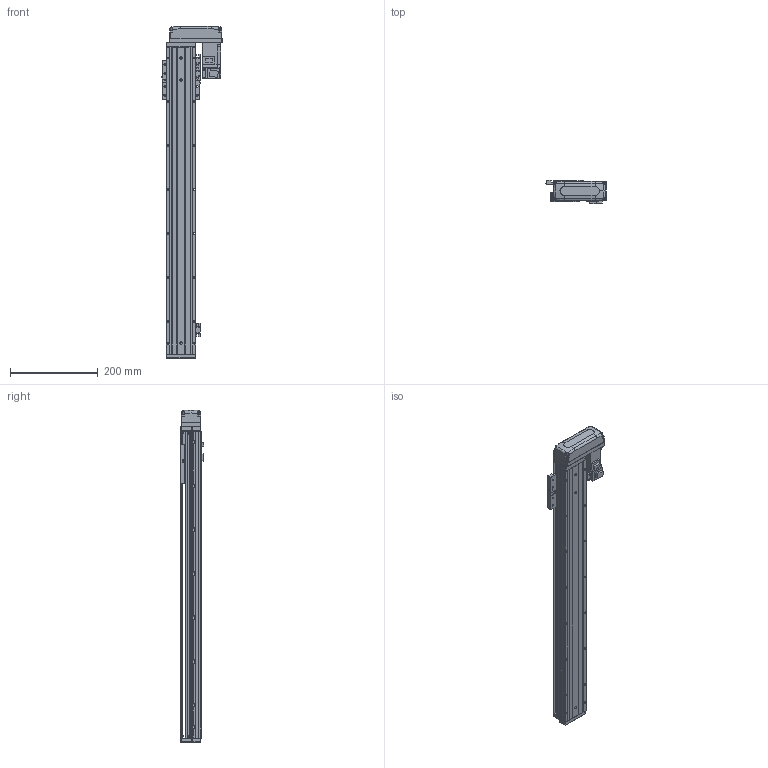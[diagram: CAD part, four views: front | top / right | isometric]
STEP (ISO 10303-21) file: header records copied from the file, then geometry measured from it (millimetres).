
FILE_DESCRIPTION (( 'STEP AP203' ), '1' );
FILE_NAME ('KTHAL60-550-BL-M10-C4L.step', '2022-03-19T08:38:37', ( '微软用户' ), ( '微软中国' ), 'SwSTEP 2.0', 'SolidWorks 2020', '' );
FILE_SCHEMA (( 'CONFIG_CONTROL_DESIGN' ));
Length unit declared in the file: millimetre
Products named in the file (18): CTHA60-021; CTHA60-033; KTHA60-004; GBT 70.1-M4×16; GBT 70.1-M3×15; KTHA60-005; GBT77-2000M3-3; KTHAL60-550-BL-M10-C4L; GB¨uT 70.2-M3¡Á5_M3¡Á6; GBT 70.1-M3℅6; GBT 70.3-M3℅6; CTHA60-016; EE_SX911P_R; HG-KR13（三菱）; KTHA60-001_700; CTHA60-017; CTHA60-015-2_CTHA60-015-2; KTHLA60-002
Assembly tree (51 placements, depth 2):
  KTHAL60-550-BL-M10-C4L
    KTHA60-001_700
    KTHLA60-002
    KTHA60-004
    KTHA60-005
    GB¨uT 70.2-M3¡Á5_M3¡Á6  x5
    GBT 70.3-M3℅6  x4
    EE_SX911P_R  x3
    CTHA60-017  x3
    CTHA60-021  x2
    GBT 70.1-M4×16  x10
    GBT77-2000M3-3  x6
    GBT 70.1-M3℅6  x6
    CTHA60-016
    HG-KR13（三菱）
    CTHA60-015-2_CTHA60-015-2
    CTHA60-033
    GBT 70.1-M3×15  x4
Bounding box: 137 x 53.3 x 757 mm (x, y, z)
Volume: 1616142.4 mm3; surface area: 399440.5 mm2
Topology: 54 solids, 54 shells, 2315 faces, 5499 edges, 3377 vertices
Faces by surface type: plane 1324, cylinder 565, cone 288, torus 98, bspline 26, sphere 14
Entity records: 40639 total; most frequent: CARTESIAN_POINT 7672, DIRECTION 6353, ORIENTED_EDGE 6142, EDGE_CURVE 3071, AXIS2_PLACEMENT_3D 2125, VECTOR 2103, LINE 2103, VERTEX_POINT 1926
